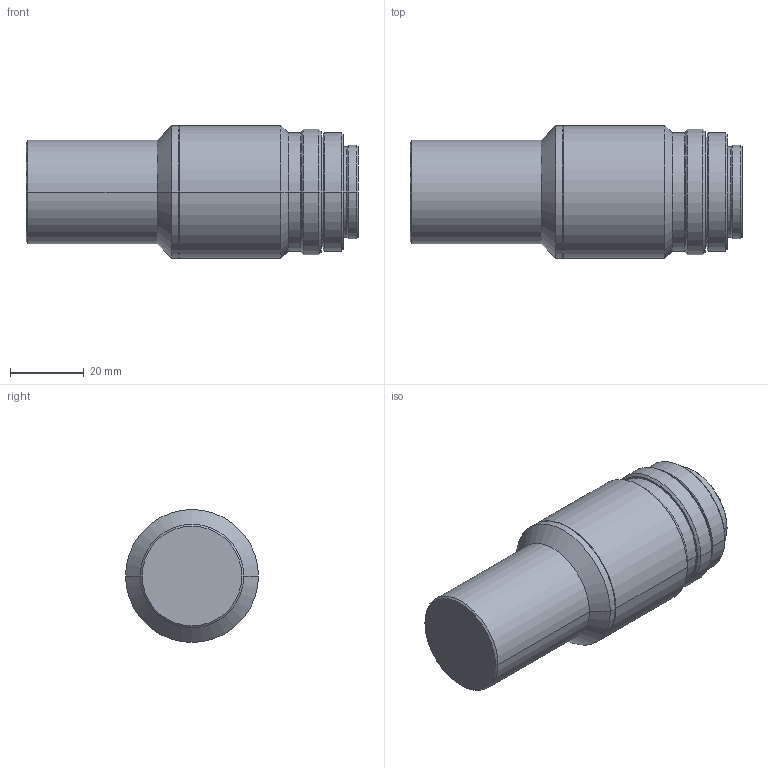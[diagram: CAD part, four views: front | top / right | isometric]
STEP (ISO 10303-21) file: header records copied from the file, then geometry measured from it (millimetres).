
FILE_DESCRIPTION (( 'STEP AP214' ), '1' );
FILE_NAME ('VS-TCM075-65_S(Šm”F‘O).STEP', '2019-07-04T00:54:20', ( '' ), ( '' ), 'SwSTEP 2.0', 'SolidWorks 2018', '' );
FILE_SCHEMA (( 'AUTOMOTIVE_DESIGN' ));
Length unit declared in the file: millimetre
Products named in the file (1): VS-TCM075-65_S(確認前)
Bounding box: 89.9 x 36 x 36 mm (x, y, z)
Volume: 71340.7 mm3; surface area: 10914.6 mm2
Topology: 1 solids, 1 shells, 50 faces, 98 edges, 54 vertices
Faces by surface type: cone 26, cylinder 18, plane 6
Entity records: 1298 total; most frequent: DIRECTION 254, CARTESIAN_POINT 203, ORIENTED_EDGE 196, AXIS2_PLACEMENT_3D 105, EDGE_CURVE 98, CIRCLE 54, EDGE_LOOP 54, VERTEX_POINT 54
